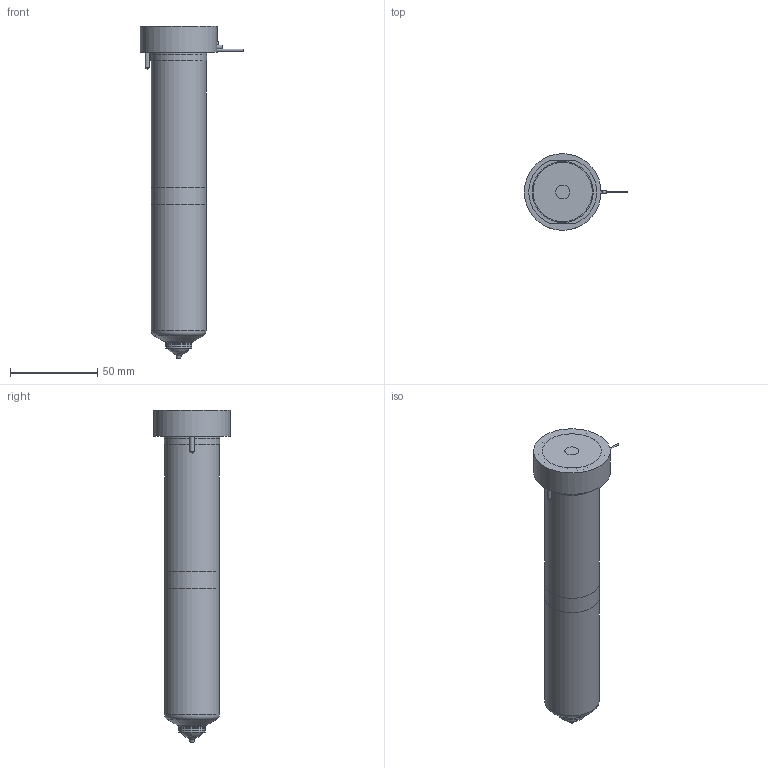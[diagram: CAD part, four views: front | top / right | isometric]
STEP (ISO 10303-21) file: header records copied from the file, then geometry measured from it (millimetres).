
FILE_DESCRIPTION(/* description */ (''),/* implementation_level */ '2;1');
FILE_NAME(/* name */ 'MXTV19175_250C_b',/* time_stamp */ '2007-01-18T09:54:14+13:00',/* author */ (''),/* organization */ (''),/* preprocessor_version */ 'ST-DEVELOPER v9',/* originating_system */ 'UGS - NX 4.0',/* authorisation */ '');
FILE_SCHEMA (('CONFIG_CONTROL_DESIGN'));
Length unit declared in the file: millimetre
Products named in the file (1): MXTV19175_250C_b
Bounding box: 59.25 x 44 x 190.58 mm (x, y, z)
Volume: 260523.7 mm3; surface area: 43195.5 mm2
Topology: 7 solids, 7 shells, 86 faces, 163 edges, 104 vertices
Faces by surface type: plane 36, cylinder 27, cone 13, torus 8, bspline 2
Full cylindrical faces by diameter (mm): 1 x3, 2 x2, 2.5 x2, 3 x1, 8 x1, 14.61 x1, 15.01 x2, 18.3 x1, 25.4 x1, 31.5 x2, 32 x2, 44 x1
Entity records: 2069 total; most frequent: CARTESIAN_POINT 427, DIRECTION 352, ORIENTED_EDGE 228, AXIS2_PLACEMENT_3D 163, EDGE_LOOP 138, EDGE_CURVE 114, VERTEX_POINT 95, ADVANCED_FACE 86
